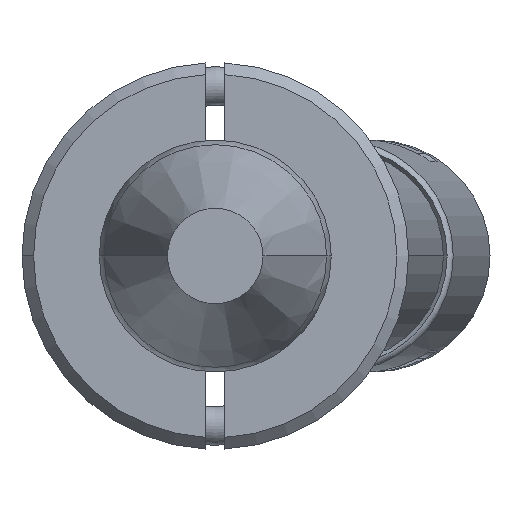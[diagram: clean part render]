
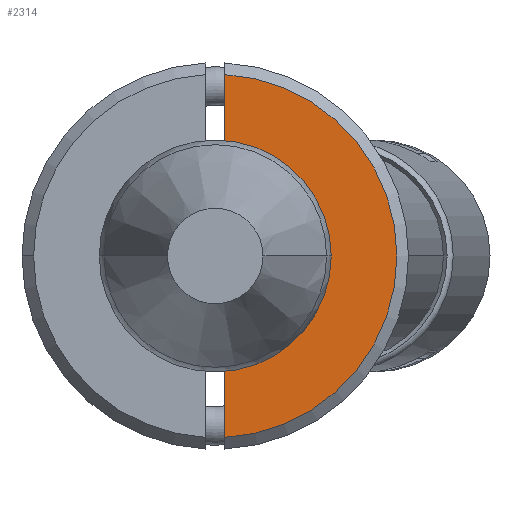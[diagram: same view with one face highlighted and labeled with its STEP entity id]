
A CAD part, front view. The second image highlights one B-rep face of the part: STEP entity #2314.
In plain terms, the highlighted planar face has unit normal (0, -1, 0).
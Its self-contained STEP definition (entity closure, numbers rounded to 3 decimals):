
#32 = CARTESIAN_POINT ( 'NONE',  ( -2.437, -6., -0.25 ) ) ;
#153 = CARTESIAN_POINT ( 'NONE',  ( -5., -6., -0.25 ) ) ;
#193 = CARTESIAN_POINT ( 'NONE',  ( 0., -6., -2.45 ) ) ;
#222 = DIRECTION ( 'NONE',  ( 0., 0., -1. ) ) ;
#276 = ORIENTED_EDGE ( 'NONE', *, *, #1607, .T. ) ;
#414 = CIRCLE ( 'NONE', #1240, 4.7 ) ;
#417 = VECTOR ( 'NONE', #518, 1000. ) ;
#444 = ORIENTED_EDGE ( 'NONE', *, *, #611, .F. ) ;
#518 = DIRECTION ( 'NONE',  ( 1., 0., 0. ) ) ;
#611 = EDGE_CURVE ( 'NONE', #1076, #2171, #2980, .T. ) ;
#681 = AXIS2_PLACEMENT_3D ( 'NONE', #2383, #3523, #222 ) ;
#708 = DIRECTION ( 'NONE',  ( 0., 0., -1. ) ) ;
#1076 = VERTEX_POINT ( 'NONE', #1674 ) ;
#1107 = PLANE ( 'NONE',  #3629 ) ;
#1159 = ORIENTED_EDGE ( 'NONE', *, *, #3435, .T. ) ;
#1212 = DIRECTION ( 'NONE',  ( 0., -1., 0. ) ) ;
#1240 = AXIS2_PLACEMENT_3D ( 'NONE', #3296, #1212, #1438 ) ;
#1262 = ORIENTED_EDGE ( 'NONE', *, *, #3456, .T. ) ;
#1438 = DIRECTION ( 'NONE',  ( 0., 0., -1. ) ) ;
#1484 = CARTESIAN_POINT ( 'NONE',  ( -5., -6., -0.25 ) ) ;
#1577 = CARTESIAN_POINT ( 'NONE',  ( 4.693, -6., -0.25 ) ) ;
#1607 = EDGE_CURVE ( 'NONE', #3284, #2375, #3437, .T. ) ;
#1674 = CARTESIAN_POINT ( 'NONE',  ( -4.693, -6., -0.25 ) ) ;
#1686 = DIRECTION ( 'NONE',  ( 0., 0., -1. ) ) ;
#1911 = CARTESIAN_POINT ( 'NONE',  ( 2.437, -6., -0.25 ) ) ;
#1948 = AXIS2_PLACEMENT_3D ( 'NONE', #3345, #2731, #708 ) ;
#2171 = VERTEX_POINT ( 'NONE', #32 ) ;
#2194 = VERTEX_POINT ( 'NONE', #1577 ) ;
#2314 = ADVANCED_FACE ( 'NONE', ( #3797 ), #1107, .T. ) ;
#2375 = VERTEX_POINT ( 'NONE', #193 ) ;
#2383 = CARTESIAN_POINT ( 'NONE',  ( 0., -6., 0. ) ) ;
#2411 = DIRECTION ( 'NONE',  ( 1., 0., 0. ) ) ;
#2474 = ORIENTED_EDGE ( 'NONE', *, *, #3003, .F. ) ;
#2594 = LINE ( 'NONE', #153, #417 ) ;
#2731 = DIRECTION ( 'NONE',  ( 0., 1., 0. ) ) ;
#2980 = LINE ( 'NONE', #1484, #3698 ) ;
#3003 = EDGE_CURVE ( 'NONE', #3284, #2194, #2594, .T. ) ;
#3093 = EDGE_LOOP ( 'NONE', ( #444, #1159, #2474, #276, #1262 ) ) ;
#3166 = CARTESIAN_POINT ( 'NONE',  ( -5., -6., 0. ) ) ;
#3284 = VERTEX_POINT ( 'NONE', #1911 ) ;
#3296 = CARTESIAN_POINT ( 'NONE',  ( 0., -6., 0. ) ) ;
#3345 = CARTESIAN_POINT ( 'NONE',  ( 0., -6., 0. ) ) ;
#3353 = CIRCLE ( 'NONE', #681, 2.45 ) ;
#3435 = EDGE_CURVE ( 'NONE', #1076, #2194, #414, .T. ) ;
#3437 = CIRCLE ( 'NONE', #1948, 2.45 ) ;
#3456 = EDGE_CURVE ( 'NONE', #2375, #2171, #3353, .T. ) ;
#3474 = DIRECTION ( 'NONE',  ( 0., -1., 0. ) ) ;
#3523 = DIRECTION ( 'NONE',  ( 0., 1., 0. ) ) ;
#3629 = AXIS2_PLACEMENT_3D ( 'NONE', #3166, #3474, #1686 ) ;
#3698 = VECTOR ( 'NONE', #2411, 1000. ) ;
#3797 = FACE_OUTER_BOUND ( 'NONE', #3093, .T. ) ;
